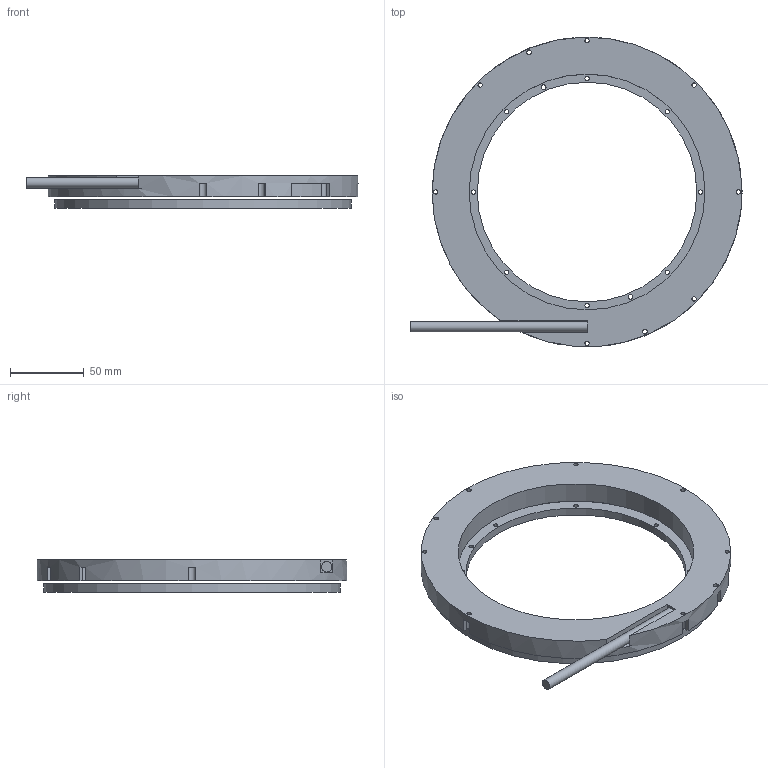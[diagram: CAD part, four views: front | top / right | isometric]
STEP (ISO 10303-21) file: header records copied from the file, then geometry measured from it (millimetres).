
FILE_DESCRIPTION(('STEP AP242'), '1');
FILE_NAME('YA-210', '', ('UNSPECIFIED'), ('UNSPECIFIED'), 'C3D Converter', 'C3D Toolkit', '');
FILE_SCHEMA(('AP242_MANAGED_MODEL_BASED_3D_ENGINEERING_MIM_LF { 1 0 10303 442 1 1 4 }'));
Length unit declared in the file: millimetre
Products named in the file (4): -03
Assembly tree (3 placements, depth 2):
  (unnamed)
    -03
    -03
    (unnamed)
Bounding box: 225 x 209.99 x 21.9 mm (x, y, z)
Volume: 288001.2 mm3; surface area: 107066.3 mm2
Topology: 3 solids, 3 shells, 438 faces, 1288 edges, 858 vertices
Faces by surface type: plane 399, cylinder 39
Full cylindrical faces by diameter (mm): 2.9 x15, 3.2 x4, 7 x1, 148.8 x1, 159.8 x1, 165 x2, 199 x2, 201 x1, 210 x1
Entity records: 17042 total; most frequent: DIRECTION 2600, CARTESIAN_POINT 2560, ORIENTED_EDGE 2520, EDGE_CURVE 1260, AXIS2_PLACEMENT_3D 898, VERTEX_POINT 858, LINE 804, VECTOR 804
